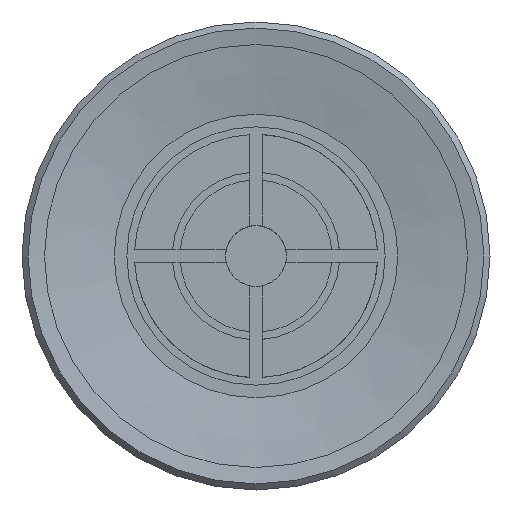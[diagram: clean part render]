
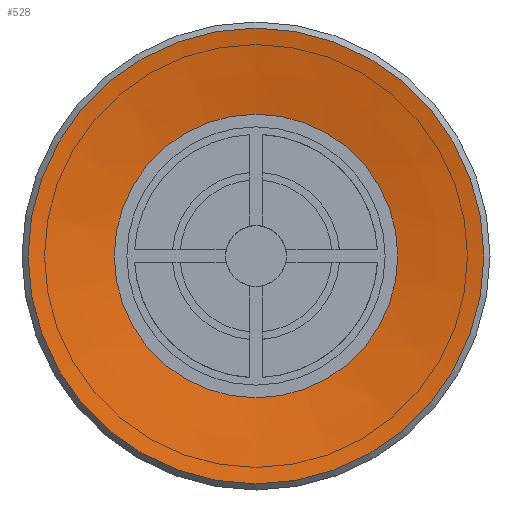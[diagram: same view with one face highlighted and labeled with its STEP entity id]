
A CAD part, front view. The second image highlights one B-rep face of the part: STEP entity #528.
In plain terms, the highlighted conical face has half-angle 80 degrees and reference radius 4.664 mm.
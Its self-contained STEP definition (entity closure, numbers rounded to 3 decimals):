
#528=ADVANCED_FACE('',(#861,#862),#863,.F.);
#861=FACE_BOUND('',#1216,.T.);
#862=FACE_OUTER_BOUND('',#1217,.T.);
#863=CONICAL_SURFACE('',#1218,4.664,1.396);
#1216=EDGE_LOOP('',(#2157));
#1217=EDGE_LOOP('',(#2158));
#1218=AXIS2_PLACEMENT_3D('',#2159,#2160,#2161);
#2157=ORIENTED_EDGE('',*,*,#2459,.F.);
#2158=ORIENTED_EDGE('',*,*,#2498,.T.);
#2159=CARTESIAN_POINT('',(0.0,0.5,0.0));
#2160=DIRECTION('',(-0.0,-1.0,0.));
#2161=DIRECTION('',(0.0,0.,-1.0));
#2459=EDGE_CURVE('',#2880,#2880,#2881,.T.);
#2498=EDGE_CURVE('',#2948,#2948,#2949,.T.);
#2880=VERTEX_POINT('',#3780);
#2881=CIRCLE('',#3781,4.664);
#2948=VERTEX_POINT('',#3908);
#2949=CIRCLE('',#3909,7.5);
#3780=CARTESIAN_POINT('',(0.0,0.5,-4.664));
#3781=AXIS2_PLACEMENT_3D('',#4311,#4312,#4313);
#3908=CARTESIAN_POINT('',(0.0,0.,-7.5));
#3909=AXIS2_PLACEMENT_3D('',#4370,#4371,#4372);
#4311=CARTESIAN_POINT('',(0.0,0.5,0.0));
#4312=DIRECTION('',(0.0,-1.0,0.));
#4313=DIRECTION('',(0.0,0.,-1.0));
#4370=CARTESIAN_POINT('',(0.0,0.0,0.0));
#4371=DIRECTION('',(0.0,-1.0,0.));
#4372=DIRECTION('',(0.0,0.,-1.0));
